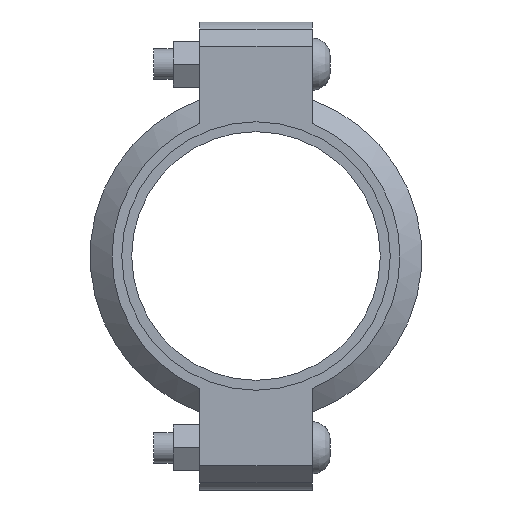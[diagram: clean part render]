
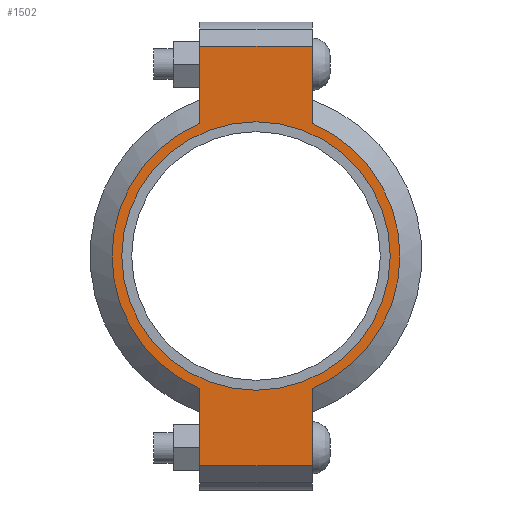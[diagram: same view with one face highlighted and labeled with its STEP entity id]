
A CAD part, left-side view. The second image highlights one B-rep face of the part: STEP entity #1502.
In plain terms, the highlighted planar face has unit normal (-1, 0, 0) as drawn and (0, 0, 1) by its records, which use the part's own axes.
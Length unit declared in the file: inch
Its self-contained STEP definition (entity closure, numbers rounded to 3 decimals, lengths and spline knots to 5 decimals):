
#126=LINE('',#2630,#219);
#134=LINE('',#2666,#227);
#141=LINE('',#2687,#234);
#150=LINE('',#2719,#243);
#151=LINE('',#2723,#244);
#152=LINE('',#2725,#245);
#219=VECTOR('',#2154,0.3937);
#227=VECTOR('',#2170,0.3937);
#234=VECTOR('',#2189,0.3937);
#243=VECTOR('',#2214,0.3937);
#244=VECTOR('',#2219,0.3937);
#245=VECTOR('',#2220,0.3937);
#301=FACE_BOUND('',#479,.T.);
#373=FACE_OUTER_BOUND('',#478,.T.);
#478=EDGE_LOOP('',(#1243,#1244,#1245,#1246,#1247,#1248,#1249,#1250));
#479=EDGE_LOOP('',(#1251));
#551=CIRCLE('',#1730,2.75);
#577=CIRCLE('',#1789,2.95);
#578=CIRCLE('',#1790,2.95);
#643=VERTEX_POINT('',#2446);
#686=VERTEX_POINT('',#2627);
#687=VERTEX_POINT('',#2629);
#698=VERTEX_POINT('',#2661);
#699=VERTEX_POINT('',#2665);
#706=VERTEX_POINT('',#2684);
#707=VERTEX_POINT('',#2686);
#717=VERTEX_POINT('',#2722);
#718=VERTEX_POINT('',#2724);
#799=EDGE_CURVE('',#643,#643,#551,.T.);
#860=EDGE_CURVE('',#687,#686,#126,.T.);
#874=EDGE_CURVE('',#699,#698,#134,.T.);
#884=EDGE_CURVE('',#707,#706,#141,.T.);
#899=EDGE_CURVE('',#699,#686,#150,.T.);
#900=EDGE_CURVE('',#698,#707,#577,.T.);
#901=EDGE_CURVE('',#717,#706,#151,.T.);
#902=EDGE_CURVE('',#717,#718,#152,.T.);
#903=EDGE_CURVE('',#718,#687,#578,.T.);
#1243=ORIENTED_EDGE('',*,*,#899,.F.);
#1244=ORIENTED_EDGE('',*,*,#874,.T.);
#1245=ORIENTED_EDGE('',*,*,#900,.T.);
#1246=ORIENTED_EDGE('',*,*,#884,.T.);
#1247=ORIENTED_EDGE('',*,*,#901,.F.);
#1248=ORIENTED_EDGE('',*,*,#902,.T.);
#1249=ORIENTED_EDGE('',*,*,#903,.T.);
#1250=ORIENTED_EDGE('',*,*,#860,.T.);
#1251=ORIENTED_EDGE('',*,*,#799,.T.);
#1344=PLANE('',#1788);
#1502=ADVANCED_FACE('',(#373,#301),#1344,.T.);
#1730=AXIS2_PLACEMENT_3D('',#2448,#2030,#2031);
#1788=AXIS2_PLACEMENT_3D('',#2720,#2215,#2216);
#1789=AXIS2_PLACEMENT_3D('',#2721,#2217,#2218);
#1790=AXIS2_PLACEMENT_3D('',#2726,#2221,#2222);
#2030=DIRECTION('center_axis',(0.,0.,-1.));
#2031=DIRECTION('ref_axis',(1.,0.,0.));
#2154=DIRECTION('',(1.,0.,0.));
#2170=DIRECTION('',(-1.,0.,0.));
#2189=DIRECTION('',(-1.,0.,0.));
#2214=DIRECTION('',(0.,-1.,0.));
#2215=DIRECTION('center_axis',(0.,0.,1.));
#2216=DIRECTION('ref_axis',(-1.,0.,0.));
#2217=DIRECTION('center_axis',(0.,0.,1.));
#2218=DIRECTION('ref_axis',(1.,0.,0.));
#2219=DIRECTION('',(0.,1.,0.));
#2220=DIRECTION('',(1.,0.,0.));
#2221=DIRECTION('center_axis',(0.,0.,1.));
#2222=DIRECTION('ref_axis',(1.,0.,0.));
#2446=CARTESIAN_POINT('',(-2.75,0.,1.065));
#2448=CARTESIAN_POINT('Origin',(0.,0.,1.065));
#2627=CARTESIAN_POINT('',(4.295,-1.15,1.065));
#2629=CARTESIAN_POINT('',(2.71662,-1.15,1.065));
#2630=CARTESIAN_POINT('',(4.795,-1.15,1.065));
#2661=CARTESIAN_POINT('',(2.71662,1.15,1.065));
#2665=CARTESIAN_POINT('',(4.295,1.15,1.065));
#2666=CARTESIAN_POINT('',(-4.795,1.15,1.065));
#2684=CARTESIAN_POINT('',(-4.295,1.15,1.065));
#2686=CARTESIAN_POINT('',(-2.71662,1.15,1.065));
#2687=CARTESIAN_POINT('',(-4.795,1.15,1.065));
#2719=CARTESIAN_POINT('',(4.295,-0.575,1.065));
#2720=CARTESIAN_POINT('Origin',(0.,0.,
1.065));
#2721=CARTESIAN_POINT('Origin',(0.,0.,1.065));
#2722=CARTESIAN_POINT('',(-4.295,-1.15,1.065));
#2723=CARTESIAN_POINT('',(-4.295,0.575,1.065));
#2724=CARTESIAN_POINT('',(-2.71662,-1.15,1.065));
#2725=CARTESIAN_POINT('',(4.795,-1.15,1.065));
#2726=CARTESIAN_POINT('Origin',(0.,0.,1.065));
